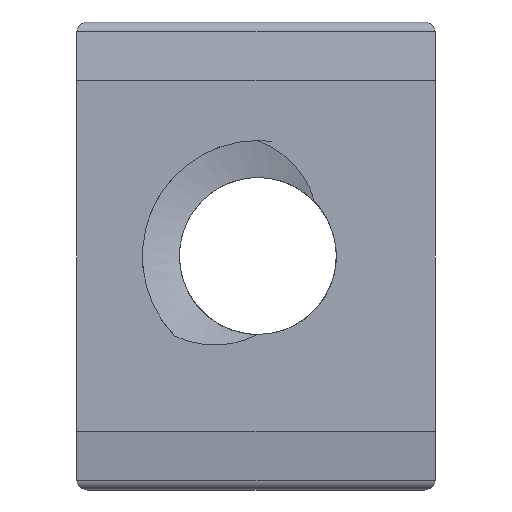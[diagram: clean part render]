
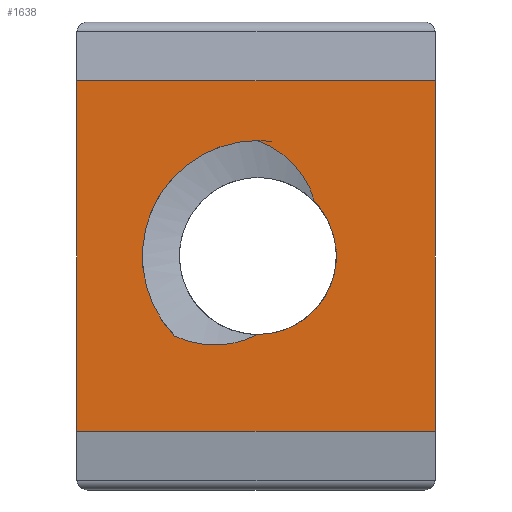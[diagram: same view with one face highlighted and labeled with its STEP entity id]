
A CAD part, front view. The second image highlights one B-rep face of the part: STEP entity #1638.
In plain terms, the highlighted planar face has unit normal (0, -1, 0).
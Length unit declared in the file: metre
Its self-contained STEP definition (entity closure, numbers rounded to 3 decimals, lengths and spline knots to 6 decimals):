
#62=CIRCLE('',#1736,0.00625);
#63=CIRCLE('',#1738,0.00425);
#66=B_SPLINE_CURVE_WITH_KNOTS('',3,(#3272,#3273,#3274,#3275,#3276),
 .UNSPECIFIED.,.F.,.F.,(4,1,4),(0.018949,0.021243,0.023537),
 .UNSPECIFIED.);
#67=B_SPLINE_CURVE_WITH_KNOTS('',3,(#3403,#3404,#3405,#3406),
 .UNSPECIFIED.,.F.,.F.,(4,4),(0.012329,0.016949),
 .UNSPECIFIED.);
#308=ORIENTED_EDGE('',*,*,#701,.T.);
#309=ORIENTED_EDGE('',*,*,#789,.T.);
#310=ORIENTED_EDGE('',*,*,#697,.F.);
#311=ORIENTED_EDGE('',*,*,#741,.F.);
#312=ORIENTED_EDGE('',*,*,#758,.T.);
#313=ORIENTED_EDGE('',*,*,#764,.F.);
#314=ORIENTED_EDGE('',*,*,#762,.T.);
#315=ORIENTED_EDGE('',*,*,#763,.F.);
#697=EDGE_CURVE('',#949,#944,#1111,.T.);
#701=EDGE_CURVE('',#954,#953,#1114,.T.);
#741=EDGE_CURVE('',#954,#949,#1149,.T.);
#758=EDGE_CURVE('',#1005,#1004,#62,.T.);
#762=EDGE_CURVE('',#1006,#1007,#63,.T.);
#763=EDGE_CURVE('',#1005,#1007,#66,.T.);
#764=EDGE_CURVE('',#1006,#1004,#67,.F.);
#789=EDGE_CURVE('',#953,#944,#1189,.T.);
#944=VERTEX_POINT('',#2467);
#949=VERTEX_POINT('',#2476);
#953=VERTEX_POINT('',#2485);
#954=VERTEX_POINT('',#2487);
#1004=VERTEX_POINT('',#2740);
#1005=VERTEX_POINT('',#2742);
#1006=VERTEX_POINT('',#3010);
#1007=VERTEX_POINT('',#3144);
#1111=LINE('',#2477,#1271);
#1114=LINE('',#2486,#1274);
#1149=LINE('',#2576,#1309);
#1189=LINE('',#3456,#1349);
#1271=VECTOR('',#1950,1.);
#1274=VECTOR('',#1957,1.);
#1309=VECTOR('',#2008,1.);
#1349=VECTOR('',#2074,1.);
#1421=EDGE_LOOP('',(#308,#309,#310,#311));
#1422=EDGE_LOOP('',(#312,#313,#314,#315));
#1509=FACE_BOUND('',#1421,.T.);
#1510=FACE_BOUND('',#1422,.T.);
#1592=PLANE('',#1747);
#1638=ADVANCED_FACE('',(#1509,#1510),#1592,.F.);
#1736=AXIS2_PLACEMENT_3D('',#2741,#2026,#2027);
#1738=AXIS2_PLACEMENT_3D('',#3145,#2030,#2031);
#1747=AXIS2_PLACEMENT_3D('',#3455,#2072,#2073);
#1950=DIRECTION('',(1.,0.,0.));
#1957=DIRECTION('',(1.,0.,0.));
#2008=DIRECTION('',(0.,0.,1.));
#2026=DIRECTION('',(0.,1.,0.));
#2027=DIRECTION('',(0.,0.,1.));
#2030=DIRECTION('',(0.,1.,0.));
#2031=DIRECTION('',(0.,0.,1.));
#2072=DIRECTION('',(0.,1.,0.));
#2073=DIRECTION('',(0.,0.,1.));
#2074=DIRECTION('',(0.,0.,1.));
#2467=CARTESIAN_POINT('',(0.002374,-0.066589,0.016558));
#2476=CARTESIAN_POINT('',(-0.017026,-0.066589,0.016558));
#2477=CARTESIAN_POINT('',(-0.017026,-0.066589,0.016558));
#2485=CARTESIAN_POINT('',(0.002374,-0.066589,-0.002442));
#2486=CARTESIAN_POINT('',(-0.017026,-0.066589,-0.002442));
#2487=CARTESIAN_POINT('',(-0.017026,-0.066589,-0.002442));
#2576=CARTESIAN_POINT('',(-0.017026,-0.066589,0.007058));
#2740=CARTESIAN_POINT('',(-0.007226,-0.066589,0.013308));
#2741=CARTESIAN_POINT('',(-0.007226,-0.066589,0.007058));
#2742=CARTESIAN_POINT('',(-0.011723,-0.066589,0.002717));
#3010=CARTESIAN_POINT('',(-0.004168,-0.066589,0.010009));
#3144=CARTESIAN_POINT('',(-0.007226,-0.066589,0.002808));
#3145=CARTESIAN_POINT('',(-0.007226,-0.066589,0.007058));
#3272=CARTESIAN_POINT('',(-0.011723,-0.066589,0.002717));
#3273=CARTESIAN_POINT('',(-0.011009,-0.066589,0.002394));
#3274=CARTESIAN_POINT('',(-0.009463,-0.066589,0.002063));
#3275=CARTESIAN_POINT('',(-0.007914,-0.066589,0.002446));
#3276=CARTESIAN_POINT('',(-0.007226,-0.066589,0.002808));
#3403=CARTESIAN_POINT('',(-0.007226,-0.066589,0.013308));
#3404=CARTESIAN_POINT('',(-0.005765,-0.066589,0.012786));
#3405=CARTESIAN_POINT('',(-0.004542,-0.066589,0.011541));
#3406=CARTESIAN_POINT('',(-0.004168,-0.066589,0.010009));
#3455=CARTESIAN_POINT('',(-0.017026,-0.066589,0.007058));
#3456=CARTESIAN_POINT('',(0.002374,-0.066589,0.007058));
